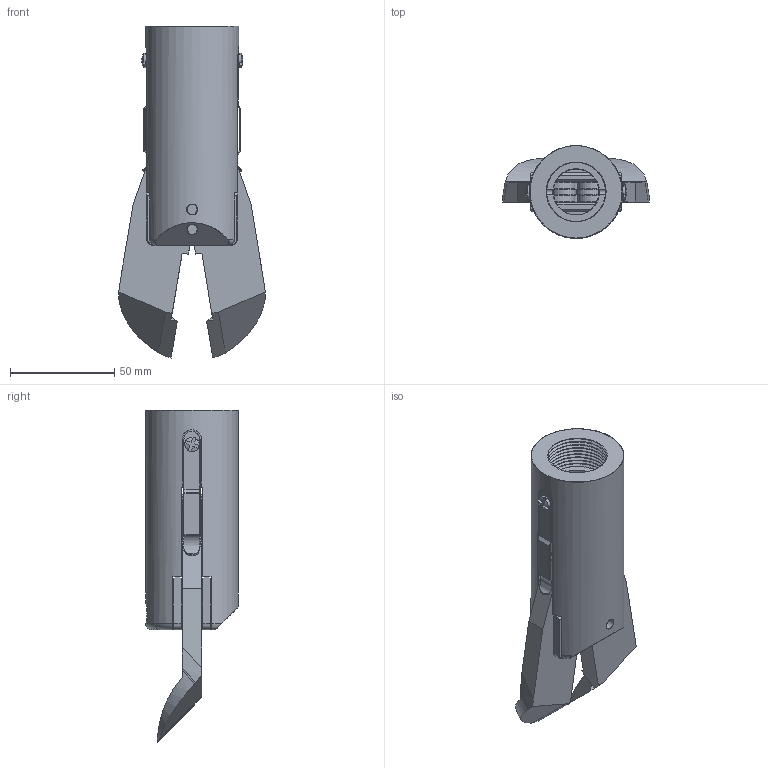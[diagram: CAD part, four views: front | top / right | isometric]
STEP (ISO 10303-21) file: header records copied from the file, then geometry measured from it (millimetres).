
FILE_DESCRIPTION (( 'STEP AP203' ), '1' );
FILE_NAME ('PGC-4-45.STEP', '2015-08-26T12:17:34', ( 'Andrew' ), ( '' ), 'SwSTEP 2.0', 'SolidWorks 2015', '' );
FILE_SCHEMA (( 'CONFIG_CONTROL_DESIGN' ));
Length unit declared in the file: inch
Products named in the file (12): 3-19-453; 3-20; PGC-4-45; PGC-4-45R; 3-23; 3-30-A; 3-41; 28-01; socket head cap screw_ai_HX-SHCS 0.25-20x1.25x1.25-N; 3-2; SA-2; PGC-4-45L
Assembly tree (20 placements, depth 3):
  PGC-4-45
    SA-2
      3-23  x4
      3-30-A  x2
      3-41  x2
      28-01  x2
      socket head cap screw_ai_HX-SHCS 0.25-20x1.25x1.25-N
      3-2
    PGC-4-45L
    PGC-4-45R
    3-19-453  x2
    3-20  x2
    3-2
Bounding box: 70.35 x 44.45 x 159.41 mm (x, y, z)
Volume: 245052.7 mm3; surface area: 79026.6 mm2
Topology: 19 solids, 19 shells, 461 faces, 1125 edges, 697 vertices
Faces by surface type: plane 201, cylinder 108, cone 107, torus 29, sphere 12, bspline 4
Full cylindrical faces by diameter (mm): 2.705 x4, 3.658 x2, 4.757 x4, 4.762 x2, 4.813 x2, 5.105 x6, 6.121 x2, 6.35 x7, 6.353 x2, 6.363 x2, 6.858 x2, 7.137 x2, 7.925 x2, 9.525 x1, 10.312 x2, 11.506 x2, 22.2 x2, 44.45 x2
Entity records: 9787 total; most frequent: CARTESIAN_POINT 2059, DIRECTION 1346, ORIENTED_EDGE 1160, EDGE_CURVE 580, AXIS2_PLACEMENT_3D 522, VERTEX_POINT 406, EDGE_LOOP 382, LINE 302
